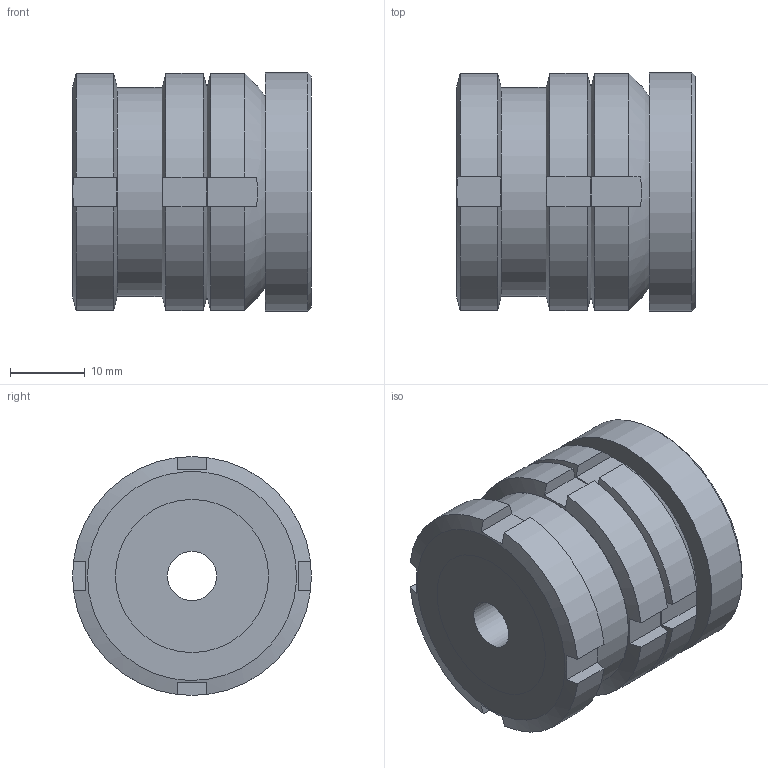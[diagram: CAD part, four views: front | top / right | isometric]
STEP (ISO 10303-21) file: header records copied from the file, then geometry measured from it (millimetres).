
FILE_DESCRIPTION( ( 'STEP AP203' ), '1' );
FILE_NAME( 'C:/Temp/Ganter_Step_05_03_2020/data/3_2/gn350_5/gn350_5_ni/Stainless Steel-Levelling set GN 350.5-32-6,6-32-NI (0-0).stp', '2020-03-13T05:28:45', ( 'License CC BY-ND 4.0' ), ( 'CADENAS' ), ' ', 'PARTsolutions', ' ' );
FILE_SCHEMA( ( 'CONFIG_CONTROL_DESIGN' ) );
Length unit declared in the file: millimetre
Products named in the file (5): Stainless Steel-Levelling set GN 350.5-32-6,6-32-NI (0-0); _Levelling set GN 350.5-32-6,6-32-ST-G; _Levelling set GN 350.5-32-6,6-32-ST-K; _Levelling set GN 350.5-32-6,6-32-ST-P(0); _Levelling set GN 350.5-32-6,6-32-ST-KM
Assembly tree (4 placements, depth 2):
  Stainless Steel-Levelling set GN 350.5-32-6,6-32-NI (0-0)
    _Levelling set GN 350.5-32-6,6-32-ST-G
    _Levelling set GN 350.5-32-6,6-32-ST-K
    _Levelling set GN 350.5-32-6,6-32-ST-P(0)
    _Levelling set GN 350.5-32-6,6-32-ST-KM
Bounding box: 32 x 32 x 32 mm (x, y, z)
Volume: 22325.2 mm3; surface area: 11094.7 mm2
Topology: 4 solids, 4 shells, 84 faces, 209 edges, 139 vertices
Faces by surface type: plane 50, cylinder 24, cone 8, sphere 2
Full cylindrical faces by diameter (mm): 6.6 x1, 15 x1, 16.473 x1, 17.5 x1, 18.917 x2, 20 x2, 20.5 x2, 28 x1, 32 x1
Entity records: 2676 total; most frequent: CARTESIAN_POINT 695, DIRECTION 364, ORIENTED_EDGE 354, EDGE_CURVE 177, AXIS2_PLACEMENT_3D 158, VERTEX_POINT 129, EDGE_LOOP 120, FACE_OUTER_BOUND 98
